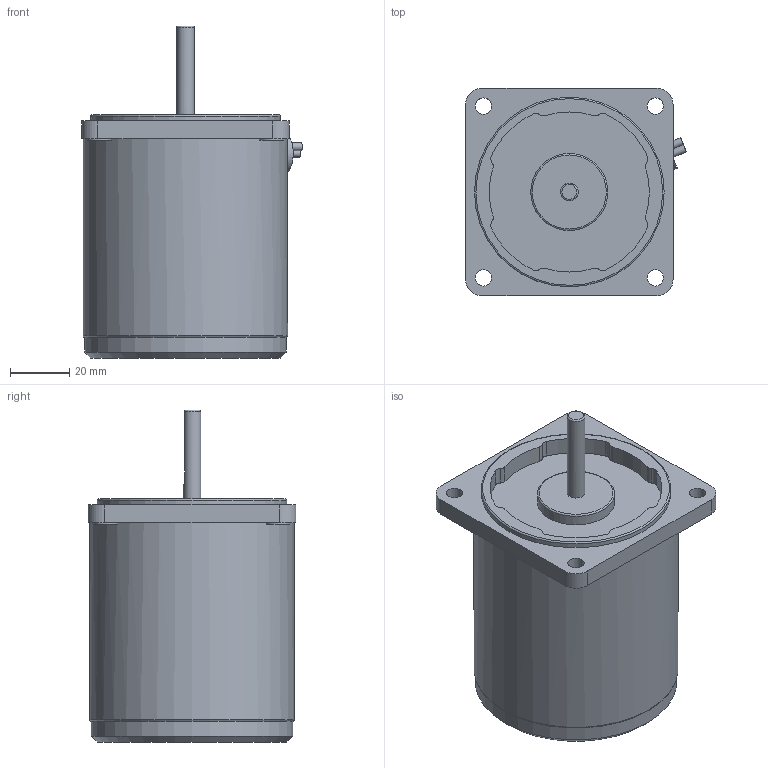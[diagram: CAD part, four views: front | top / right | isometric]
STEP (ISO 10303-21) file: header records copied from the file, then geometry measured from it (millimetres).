
FILE_DESCRIPTION((''),'2;1');
FILE_NAME('C:\Users\AHN\Desktop\K7IS15N□.stp','2020-06-25T10:50:19',('AHN'),(''),'Autodesk Inventor 2009','Autodesk Inventor 2009','');
FILE_SCHEMA(('AUTOMOTIVE_DESIGN { 1 0 10303 214 1 1 1 1 }'));
Length unit declared in the file: millimetre
Products named in the file (1): K7IS15N□
Bounding box: 74.51 x 70 x 112 mm (x, y, z)
Volume: 299177.5 mm3; surface area: 29938.2 mm2
Topology: 1 solids, 1 shells, 74 faces, 179 edges, 113 vertices
Faces by surface type: cylinder 46, plane 23, torus 4, cone 1
Full cylindrical faces by diameter (mm): 2.6 x2, 5.5 x4, 6 x1, 8 x4, 26 x1, 64 x1, 68 x1, 69 x1
Entity records: 2208 total; most frequent: CARTESIAN_POINT 445, DIRECTION 404, ORIENTED_EDGE 314, AXIS2_PLACEMENT_3D 175, EDGE_CURVE 157, VERTEX_POINT 108, EDGE_LOOP 108, CIRCLE 100
